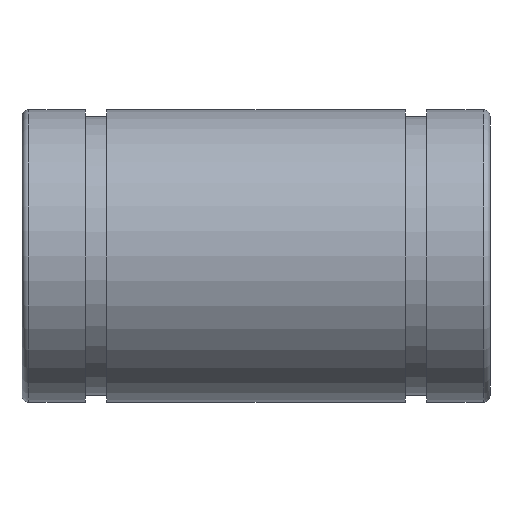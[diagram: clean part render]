
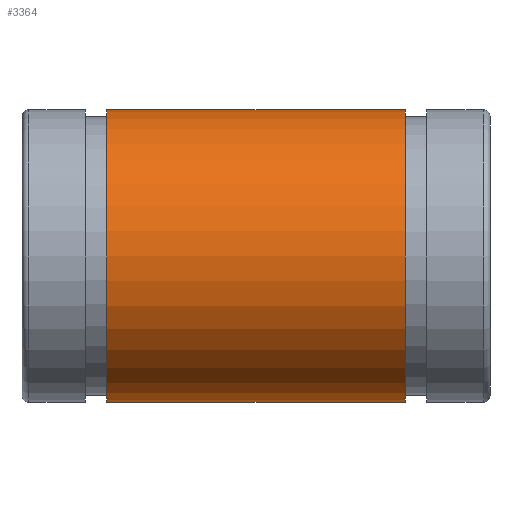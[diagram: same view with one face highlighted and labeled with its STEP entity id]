
A CAD part, front view. The second image highlights one B-rep face of the part: STEP entity #3364.
In plain terms, the highlighted cylindrical face has radius 7.5 mm (diameter 15 mm), a full revolution.
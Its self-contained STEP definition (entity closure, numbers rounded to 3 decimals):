
#23=CYLINDRICAL_SURFACE('',#3503,7.5);
#38=CIRCLE('',#3504,7.5);
#39=CIRCLE('',#3505,7.5);
#67=FACE_BOUND('',#498,.T.);
#298=FACE_OUTER_BOUND('',#497,.T.);
#497=EDGE_LOOP('',(#2998));
#498=EDGE_LOOP('',(#2999));
#1623=VERTEX_POINT('',#5929);
#1624=VERTEX_POINT('',#5931);
#2088=EDGE_CURVE('',#1623,#1623,#38,.T.);
#2089=EDGE_CURVE('',#1624,#1624,#39,.T.);
#2998=ORIENTED_EDGE('',*,*,#2088,.F.);
#2999=ORIENTED_EDGE('',*,*,#2089,.T.);
#3364=ADVANCED_FACE('',(#298,#67),#23,.T.);
#3503=AXIS2_PLACEMENT_3D('',#5928,#4122,#4123);
#3504=AXIS2_PLACEMENT_3D('',#5930,#4124,#4125);
#3505=AXIS2_PLACEMENT_3D('',#5932,#4126,#4127);
#4122=DIRECTION('center_axis',(1.,0.,0.));
#4123=DIRECTION('ref_axis',(0.,1.,0.));
#4124=DIRECTION('center_axis',(1.,0.,0.));
#4125=DIRECTION('ref_axis',(0.,1.,0.));
#4126=DIRECTION('center_axis',(1.,0.,0.));
#4127=DIRECTION('ref_axis',(0.,1.,0.));
#5928=CARTESIAN_POINT('Origin',(0.,0.,0.));
#5929=CARTESIAN_POINT('',(7.65,-7.5,0.));
#5930=CARTESIAN_POINT('Origin',(7.65,0.,0.));
#5931=CARTESIAN_POINT('',(-7.65,-7.5,0.));
#5932=CARTESIAN_POINT('Origin',(-7.65,0.,0.));
